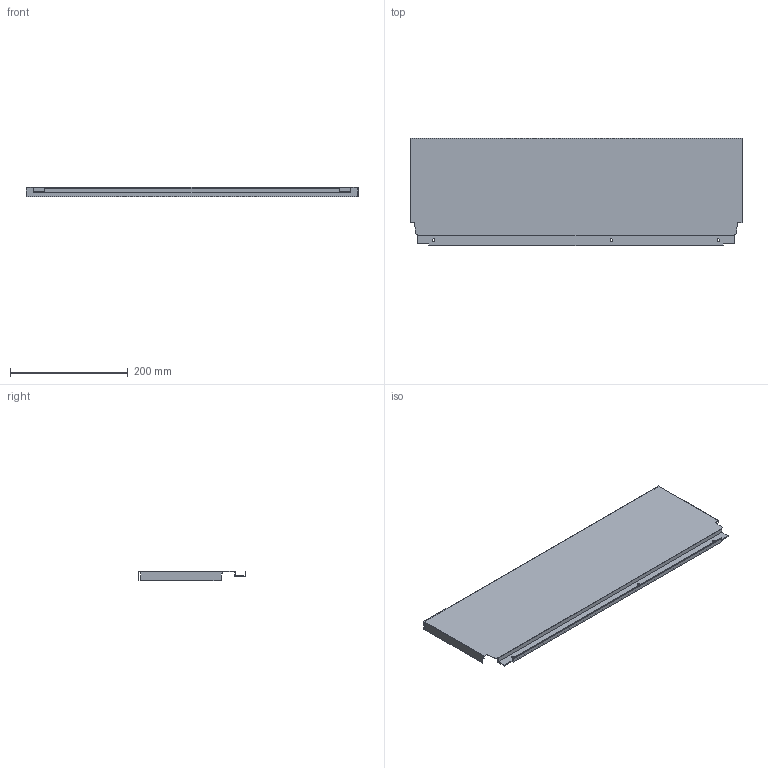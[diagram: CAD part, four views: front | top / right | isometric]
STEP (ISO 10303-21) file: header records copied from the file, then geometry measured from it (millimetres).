
FILE_DESCRIPTION (( 'STEP AP214' ), '1' );
FILE_NAME ('_DWD_XP Stahlrückwand_H182_KAB650_S18.step', '2010-07-08T12:57:56', ( 'grass' ), ( '' ), 'SwSTEP 2.0', 'SolidWorks 2010', '' );
FILE_SCHEMA (( 'AUTOMOTIVE_DESIGN' ));
Length unit declared in the file: millimetre
Products named in the file (1): _DWD_XP Stahlrückwand_H182_KAB650_S18
Bounding box: 563 x 182.49 x 16 mm (x, y, z)
Volume: 106083.7 mm3; surface area: 245973.1 mm2
Topology: 1 solids, 1 shells, 46 faces, 132 edges, 88 vertices
Faces by surface type: plane 40, cylinder 6
Entity records: 1534 total; most frequent: CARTESIAN_POINT 267, ORIENTED_EDGE 264, DIRECTION 238, EDGE_CURVE 132, LINE 120, VECTOR 120, VERTEX_POINT 88, AXIS2_PLACEMENT_3D 59
